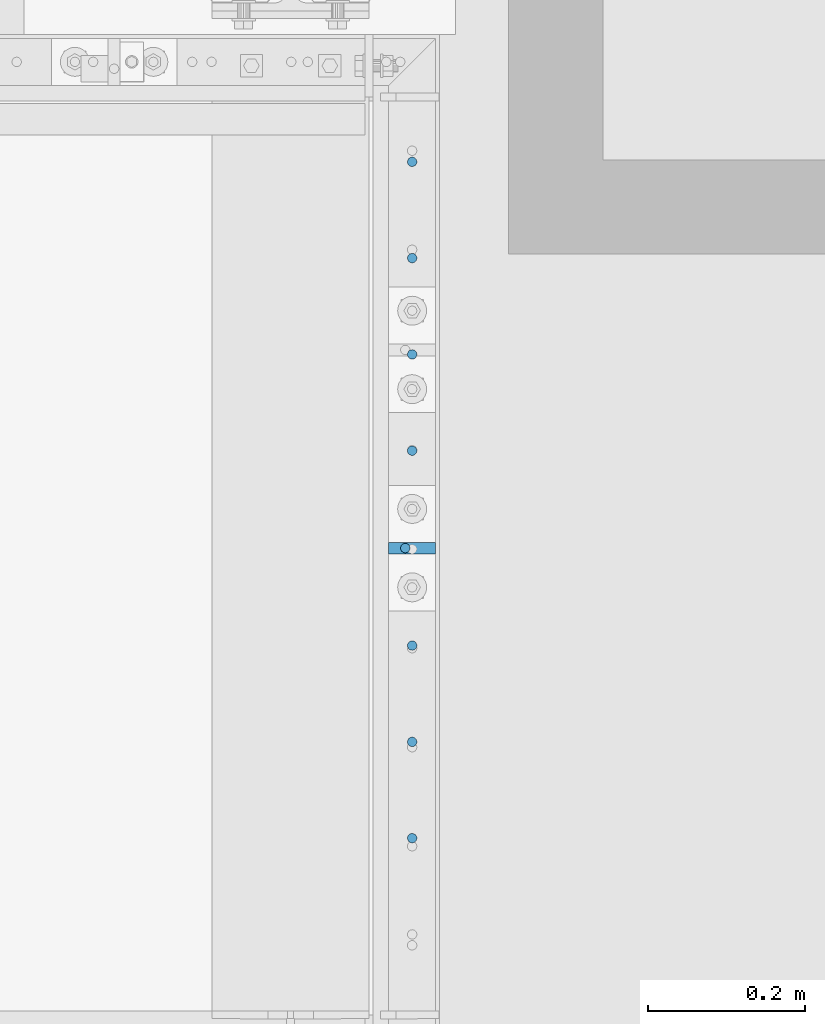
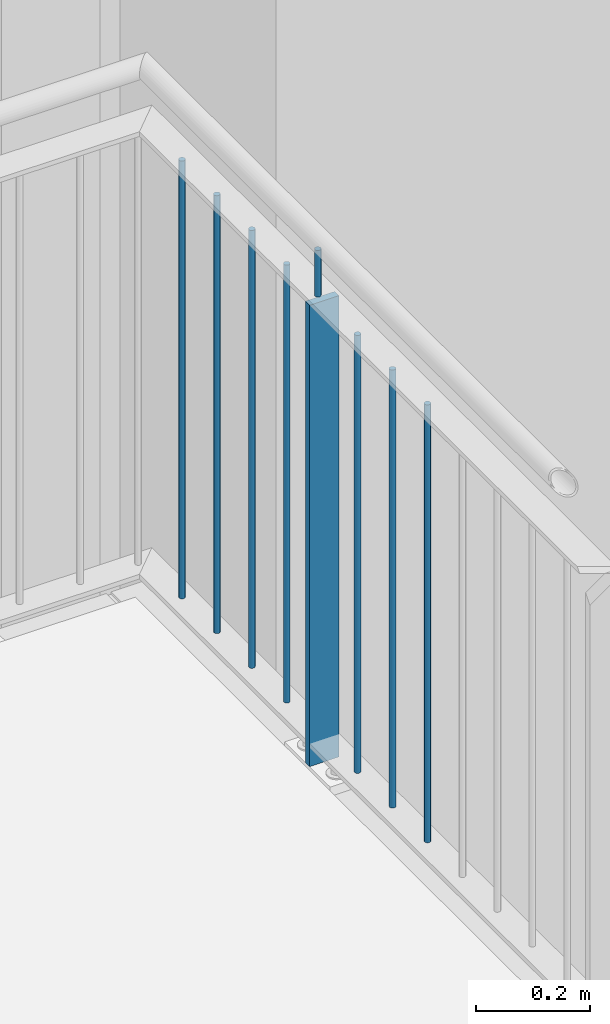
# One storey, part 101 of 825: 9 columns.
"""IFC2X3 building model written with IfcOpenShell, lengths in millimetres."""

from ifc_helpers import new_model, entity, si_unit, converted_unit, frame, origin, origin_with_axes, origin_2d, place, context, project, spatial, rectangle, circle, extrude, clip, halfspace, material, element, save


model = new_model("IFC2X3")

# Units and contexts
model_context = context("Model", 3, precision=1e-09, world=origin_with_axes())
ifc_project = project(units=[si_unit("LENGTHUNIT", "METRE", prefix="MILLI"), si_unit("AREAUNIT", "SQUARE_METRE"), si_unit("VOLUMEUNIT", "CUBIC_METRE"), converted_unit("PLANEANGLEUNIT", "DEGREE", entity("IfcPlaneAngleMeasure", 0.01745329), si_unit("PLANEANGLEUNIT", "RADIAN"), dimensions=[0, 0, 0, 0, 0, 0, 0])], contexts=[model_context])

# Site, building, storey
site_placement = place(None, origin_with_axes())
site = spatial("IfcSite", under=ifc_project, at=site_placement, Name="Cnopf'sche Kinderklinik", CompositionType="ELEMENT")
building_placement = place(site_placement, origin_with_axes())
building = spatial("IfcBuilding", under=site, at=building_placement, Name="Struktur 1", CompositionType="ELEMENT")
storey_placement = place(building_placement, origin_with_axes())
storey = spatial("IfcBuildingStorey", under=building, at=storey_placement, Name="Default Storey", CompositionType="ELEMENT", Elevation=0.0)

# Columns
ifc_material = material(Name="S235JR")
column_1_placement = place(None, frame((9021.713402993, 6736.736257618, 6714.618028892), z_axis=(0.0, 0.0, 1.0), x_axis=(0.0, -1.0, 0.0)))
element("IfcColumn", 1, at=column_1_placement, inside=storey, material=ifc_material, Name="Railing_Post_Landing#5", ObjectType="Railing_Post_Landing#5", context=model_context, shape_type="Clipping", body=[
    clip(clip(extrude(rectangle(XDim=15.0, YDim=60.0, at=origin_2d()), origin(), (0.0, 0.0, -1.0), 1070.646584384), halfspace(frame((6736.736257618, -9021.713402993, -1019.722292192), z_axis=(0.0, 0.0, 1.0), x_axis=(0.0, 1.0, 0.0)), True)), halfspace(frame((6736.736257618, -9021.713402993, -30.924292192), z_axis=(0.0, 0.0, -1.0), x_axis=(0.0, -1.0, 0.0)), True)),
])
column_2_placement = place(None, frame((9021.713402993, 7229.236329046, 6697.180018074), z_axis=(0.0, 0.0, 1.0), x_axis=(0.0, -1.0, 0.0)))
element("IfcColumn", 2, at=column_2_placement, inside=storey, material=ifc_material, Name="Railing_Picket_Landing#31", ObjectType="Railing_Picket_Landing#31", context=model_context, shape_type="Clipping", body=[
    clip(clip(extrude(circle(Radius=6.0, at=origin_2d()), origin(), (0.0, 0.0, -1.0), 965.770562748), halfspace(frame((7229.236329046, -9021.713402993, -13.486281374), z_axis=(0.0, 0.0, -1.0), x_axis=(0.0, -1.0, 0.0)), True)), halfspace(frame((7229.236329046, -9021.713402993, -952.284281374), z_axis=(0.0, 0.0, 1.0), x_axis=(0.0, 1.0, 0.0)), True)),
])
column_3_placement = place(None, frame((9021.713402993, 7106.486305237, 6697.180018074), z_axis=(0.0, 0.0, 1.0), x_axis=(0.0, -1.0, 0.0)))
element("IfcColumn", 3, at=column_3_placement, inside=storey, material=ifc_material, Name="Railing_Picket_Landing#32", ObjectType="Railing_Picket_Landing#32", context=model_context, shape_type="Clipping", body=[
    clip(clip(extrude(circle(Radius=6.0, at=origin_2d()), origin(), (0.0, 0.0, -1.0), 965.770562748), halfspace(frame((7106.486305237, -9021.713402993, -13.486281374), z_axis=(0.0, 0.0, -1.0), x_axis=(0.0, -1.0, 0.0)), True)), halfspace(frame((7106.486305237, -9021.713402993, -952.284281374), z_axis=(0.0, 0.0, 1.0), x_axis=(0.0, 1.0, 0.0)), True)),
])
column_4_placement = place(None, frame((9021.713402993, 6983.736281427, 6697.180018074), z_axis=(0.0, 0.0, 1.0), x_axis=(0.0, -1.0, 0.0)))
element("IfcColumn", 4, at=column_4_placement, inside=storey, material=ifc_material, Name="Railing_Picket_Landing#33", ObjectType="Railing_Picket_Landing#33", context=model_context, shape_type="Clipping", body=[
    clip(clip(extrude(circle(Radius=6.0, at=origin_2d()), origin(), (0.0, 0.0, -1.0), 965.770562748), halfspace(frame((6983.736281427, -9021.713402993, -13.486281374), z_axis=(0.0, 0.0, -1.0), x_axis=(0.0, -1.0, 0.0)), True)), halfspace(frame((6983.736281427, -9021.713402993, -952.284281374), z_axis=(0.0, 0.0, 1.0), x_axis=(0.0, 1.0, 0.0)), True)),
])
column_5_placement = place(None, frame((9021.713402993, 6860.986257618, 6697.180018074), z_axis=(0.0, 0.0, 1.0), x_axis=(0.0, -1.0, 0.0)))
element("IfcColumn", 5, at=column_5_placement, inside=storey, material=ifc_material, Name="Railing_Picket_Landing#34", ObjectType="Railing_Picket_Landing#34", context=model_context, shape_type="Clipping", body=[
    clip(clip(extrude(circle(Radius=6.0, at=origin_2d()), origin(), (0.0, 0.0, -1.0), 965.770562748), halfspace(frame((6860.986257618, -9021.713402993, -13.486281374), z_axis=(0.0, 0.0, -1.0), x_axis=(0.0, -1.0, 0.0)), True)), halfspace(frame((6860.986257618, -9021.713402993, -952.284281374), z_axis=(0.0, 0.0, 1.0), x_axis=(0.0, 1.0, 0.0)), True)),
])
column_6_placement = place(None, frame((9021.713402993, 6612.486257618, 6697.180018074), z_axis=(0.0, 0.0, 1.0), x_axis=(0.0, -1.0, 0.0)))
element("IfcColumn", 6, at=column_6_placement, inside=storey, material=ifc_material, Name="Railing_Picket_Landing#35", ObjectType="Railing_Picket_Landing#35", context=model_context, shape_type="Clipping", body=[
    clip(clip(extrude(circle(Radius=6.0, at=origin_2d()), origin(), (0.0, 0.0, -1.0), 965.770562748), halfspace(frame((6612.486257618, -9021.713402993, -13.486281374), z_axis=(0.0, 0.0, -1.0), x_axis=(0.0, -1.0, 0.0)), True)), halfspace(frame((6612.486257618, -9021.713402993, -952.284281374), z_axis=(0.0, 0.0, 1.0), x_axis=(0.0, 1.0, 0.0)), True)),
])
column_7_placement = place(None, frame((9021.713402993, 6489.736233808, 6697.180018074), z_axis=(0.0, 0.0, 1.0), x_axis=(0.0, -1.0, 0.0)))
element("IfcColumn", 7, at=column_7_placement, inside=storey, material=ifc_material, Name="Railing_Picket_Landing#36", ObjectType="Railing_Picket_Landing#36", context=model_context, shape_type="Clipping", body=[
    clip(clip(extrude(circle(Radius=6.0, at=origin_2d()), origin(), (0.0, 0.0, -1.0), 965.770562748), halfspace(frame((6489.736233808, -9021.713402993, -13.486281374), z_axis=(0.0, 0.0, -1.0), x_axis=(0.0, -1.0, 0.0)), True)), halfspace(frame((6489.736233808, -9021.713402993, -952.284281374), z_axis=(0.0, 0.0, 1.0), x_axis=(0.0, 1.0, 0.0)), True)),
])
column_8_placement = place(None, frame((9021.713402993, 6366.986209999, 6697.180018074), z_axis=(0.0, 0.0, 1.0), x_axis=(0.0, -1.0, 0.0)))
element("IfcColumn", 8, at=column_8_placement, inside=storey, material=ifc_material, Name="Railing_Picket_Landing#37", ObjectType="Railing_Picket_Landing#37", context=model_context, shape_type="Clipping", body=[
    clip(clip(extrude(circle(Radius=6.0, at=origin_2d()), origin(), (0.0, 0.0, -1.0), 965.770562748), halfspace(frame((6366.986209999, -9021.713402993, -13.486281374), z_axis=(0.0, 0.0, -1.0), x_axis=(0.0, -1.0, 0.0)), True)), halfspace(frame((6366.986209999, -9021.713402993, -952.284281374), z_axis=(0.0, 0.0, 1.0), x_axis=(0.0, 1.0, 0.0)), True)),
])
column_9_placement = place(None, frame((9012.913402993, 6736.736257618, 6802.180018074), z_axis=(0.0, 0.0, 1.0), x_axis=(-1.0, 0.0, 0.0)))
element("IfcColumn", 9, at=column_9_placement, inside=storey, material=ifc_material, Name="Bar#5", ObjectType="Bar#5", context=model_context, shape_type="Clipping", body=[
    clip(clip(extrude(circle(Radius=6.0, at=origin_2d()), origin(), (0.0, 0.0, -1.0), 116.970562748), halfspace(frame((9012.913402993, 6736.736257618, -8.486281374), z_axis=(0.0, 0.0, -1.0), x_axis=(1.0, 0.0, 0.0)), True)), halfspace(frame((9012.913402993, 6736.736257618, -108.484281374), z_axis=(0.0, 0.0, 1.0), x_axis=(-1.0, 0.0, 0.0)), True)),
])

save(model, "model.ifc")
